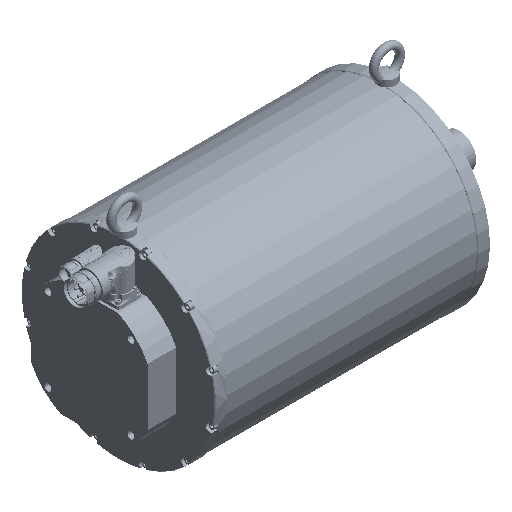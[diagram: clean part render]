
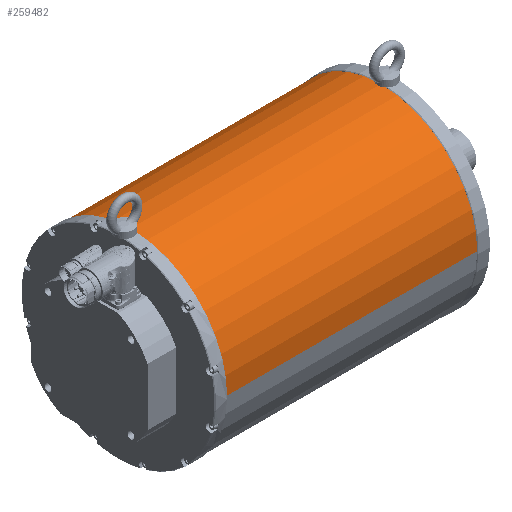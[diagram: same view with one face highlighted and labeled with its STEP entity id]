
A CAD part, isometric view. The second image highlights one B-rep face of the part: STEP entity #259482.
In plain terms, the highlighted cylindrical face has radius 158 mm (diameter 316 mm), a partial arc.
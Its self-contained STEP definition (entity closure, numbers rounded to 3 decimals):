
#259443=CARTESIAN_POINT('Axis2P3D Location',(205.,0.,0.)) ;
#259448=CARTESIAN_POINT('Line Origine',(205.,158.,0.)) ;
#259452=CARTESIAN_POINT('Cartesian Point',(0.,158.,0.)) ;
#259454=CARTESIAN_POINT('Cartesian Point',(410.,158.,0.)) ;
#259457=CARTESIAN_POINT('Axis2P3D Location',(0.,0.,0.)) ;
#259461=CARTESIAN_POINT('Cartesian Point',(0.,-158.,0.)) ;
#259464=CARTESIAN_POINT('Line Origine',(205.,-158.,0.)) ;
#259468=CARTESIAN_POINT('Cartesian Point',(410.,-158.,0.)) ;
#259471=CARTESIAN_POINT('Axis2P3D Location',(410.,0.,0.)) ;
#259444=DIRECTION('Axis2P3D Direction',(1.,0.,0.)) ;
#259445=DIRECTION('Axis2P3D XDirection',(0.,1.,0.)) ;
#259449=DIRECTION('Vector Direction',(1.,0.,0.)) ;
#259458=DIRECTION('Axis2P3D Direction',(1.,0.,0.)) ;
#259465=DIRECTION('Vector Direction',(1.,0.,0.)) ;
#259472=DIRECTION('Axis2P3D Direction',(1.,0.,0.)) ;
#259446=AXIS2_PLACEMENT_3D('Cylinder Axis2P3D',#259443,#259444,#259445) ;
#259459=AXIS2_PLACEMENT_3D('Circle Axis2P3D',#259457,#259458,$) ;
#259473=AXIS2_PLACEMENT_3D('Circle Axis2P3D',#259471,#259472,$) ;
#259477=ORIENTED_EDGE('Oriented Edge',*,*,#259456,.F.) ;
#259478=ORIENTED_EDGE('Oriented Edge',*,*,#259463,.T.) ;
#259479=ORIENTED_EDGE('Oriented Edge',*,*,#259470,.T.) ;
#259480=ORIENTED_EDGE('Oriented Edge',*,*,#259475,.F.) ;
#259450=VECTOR('Line Direction',#259449,1.) ;
#259466=VECTOR('Line Direction',#259465,1.) ;
#259482=ADVANCED_FACE('',(#259481),#259447,.T.) ;
#259460=CIRCLE('generated circle',#259459,158.) ;
#259474=CIRCLE('generated circle',#259473,158.) ;
#259447=CYLINDRICAL_SURFACE('generated cylinder',#259446,158.) ;
#259456=EDGE_CURVE('',#259453,#259455,#259451,.T.) ;
#259463=EDGE_CURVE('',#259453,#259462,#259460,.T.) ;
#259470=EDGE_CURVE('',#259462,#259469,#259467,.T.) ;
#259475=EDGE_CURVE('',#259455,#259469,#259474,.T.) ;
#259476=EDGE_LOOP('Oriented Loop',(#259477,#259478,#259479,#259480)) ;
#259481=FACE_OUTER_BOUND('Face Bound',#259476,.T.) ;
#259451=LINE('Line',#259448,#259450) ;
#259467=LINE('Line',#259464,#259466) ;
#259453=VERTEX_POINT('Vertex Point',#259452) ;
#259455=VERTEX_POINT('Vertex Point',#259454) ;
#259462=VERTEX_POINT('Vertex Point',#259461) ;
#259469=VERTEX_POINT('Vertex Point',#259468) ;
